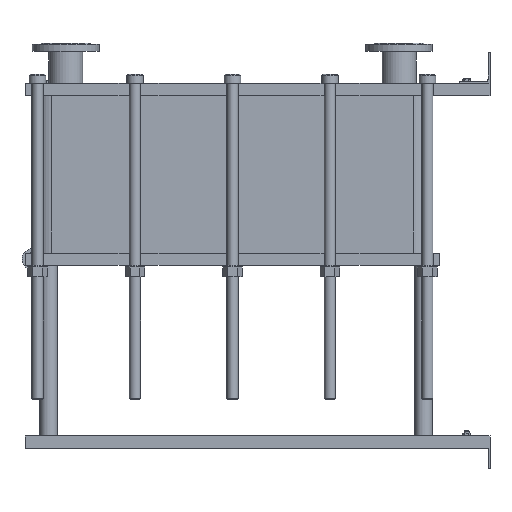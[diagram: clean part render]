
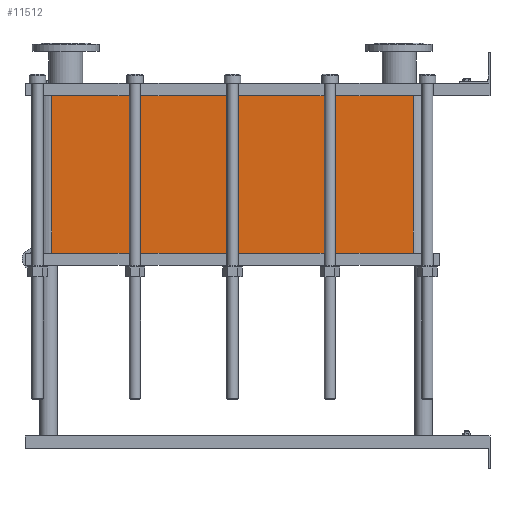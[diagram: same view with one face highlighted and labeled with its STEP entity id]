
A CAD part, left-side view. The second image highlights one B-rep face of the part: STEP entity #11512.
In plain terms, the highlighted planar face has unit normal (-1, 0, 0).
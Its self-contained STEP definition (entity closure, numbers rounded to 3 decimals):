
#1129=LINE('',#23232,#2102);
#1130=LINE('',#23236,#2103);
#1131=LINE('',#23238,#2104);
#1132=LINE('',#23239,#2105);
#2102=VECTOR('',#15887,10.);
#2103=VECTOR('',#15892,10.);
#2104=VECTOR('',#15893,10.);
#2105=VECTOR('',#15894,10.);
#3267=FACE_OUTER_BOUND('',#4093,.T.);
#4093=EDGE_LOOP('',(#10103,#10104,#10105,#10106));
#5642=VERTEX_POINT('',#23229);
#5643=VERTEX_POINT('',#23231);
#5644=VERTEX_POINT('',#23235);
#5645=VERTEX_POINT('',#23237);
#7159=EDGE_CURVE('',#5643,#5642,#1129,.T.);
#7161=EDGE_CURVE('',#5642,#5644,#1130,.T.);
#7162=EDGE_CURVE('',#5645,#5644,#1131,.T.);
#7163=EDGE_CURVE('',#5645,#5643,#1132,.T.);
#10103=ORIENTED_EDGE('',*,*,#7161,.T.);
#10104=ORIENTED_EDGE('',*,*,#7162,.F.);
#10105=ORIENTED_EDGE('',*,*,#7163,.T.);
#10106=ORIENTED_EDGE('',*,*,#7159,.T.);
#10857=PLANE('',#12751);
#11512=ADVANCED_FACE('',(#3267),#10857,.T.);
#12751=AXIS2_PLACEMENT_3D('',#23234,#15890,#15891);
#15887=DIRECTION('',(0.,0.,-1.));
#15890=DIRECTION('center_axis',(-1.,0.,0.));
#15891=DIRECTION('ref_axis',(0.,1.,0.));
#15892=DIRECTION('',(0.,-1.,0.));
#15893=DIRECTION('',(0.,0.,-1.));
#15894=DIRECTION('',(0.,1.,0.));
#23229=CARTESIAN_POINT('',(-200.,1414.,-507.15));
#23231=CARTESIAN_POINT('',(-200.,1414.,0.));
#23232=CARTESIAN_POINT('',(-200.,1414.,0.));
#23234=CARTESIAN_POINT('Origin',(-200.,248.,0.));
#23235=CARTESIAN_POINT('',(-200.,248.,-507.15));
#23236=CARTESIAN_POINT('',(-200.,539.5,-507.15));
#23237=CARTESIAN_POINT('',(-200.,248.,0.));
#23238=CARTESIAN_POINT('',(-200.,248.,0.));
#23239=CARTESIAN_POINT('',(-200.,248.,0.));
